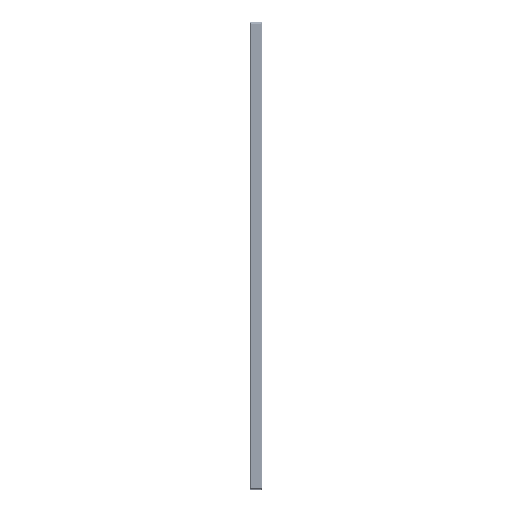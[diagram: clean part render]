
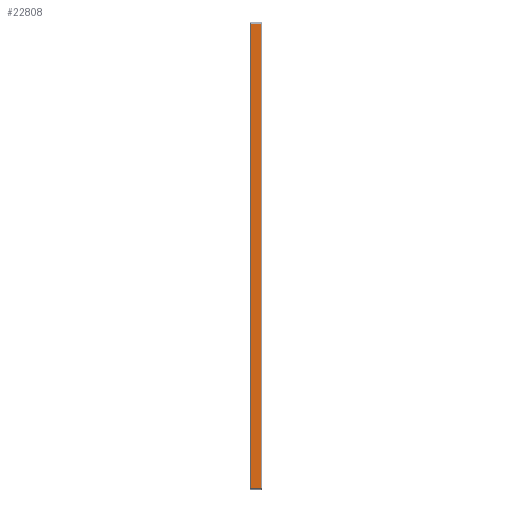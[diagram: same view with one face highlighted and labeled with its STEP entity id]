
A CAD part, top view. The second image highlights one B-rep face of the part: STEP entity #22808.
In plain terms, the highlighted planar face has unit normal (0, 0, 1).
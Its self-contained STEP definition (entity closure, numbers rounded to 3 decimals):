
#6946=FACE_OUTER_BOUND($,#9849,.T.);
#9849=EDGE_LOOP($,(#19291,#19292,#19293,#19294));
#13320=LINE($,#36773,#13360);
#13328=LINE($,#37942,#13368);
#13333=LINE($,#37952,#13373);
#13351=LINE($,#39140,#13391);
#13360=VECTOR($,#28614,13.);
#13368=VECTOR($,#29780,596.);
#13373=VECTOR($,#29787,13.);
#13391=VECTOR($,#30975,596.);
#13399=VERTEX_POINT($,#36770);
#13400=VERTEX_POINT($,#36772);
#13982=VERTEX_POINT($,#37940);
#13986=VERTEX_POINT($,#37950);
#15732=EDGE_CURVE($,#13399,#13400,#13320,.T.);
#16317=EDGE_CURVE($,#13982,#13399,#13328,.T.);
#16322=EDGE_CURVE($,#13986,#13982,#13333,.T.);
#16917=EDGE_CURVE($,#13400,#13986,#13351,.T.);
#19291=ORIENTED_EDGE($,*,*,#16317,.F.);
#19292=ORIENTED_EDGE($,*,*,#16322,.F.);
#19293=ORIENTED_EDGE($,*,*,#16917,.F.);
#19294=ORIENTED_EDGE($,*,*,#15732,.F.);
#22785=PLANE($,#25714);
#22808=ADVANCED_FACE($,(#6946),#22785,.T.);
#25714=AXIS2_PLACEMENT_3D($,#39145,#30980,#30981);
#28614=DIRECTION($,(1.,0.,0.));
#29780=DIRECTION($,(0.,1.,0.));
#29787=DIRECTION($,(-1.,0.,0.));
#30975=DIRECTION($,(0.,-1.,0.));
#30980=DIRECTION('center_axis',(0.,0.,1.));
#30981=DIRECTION('ref_axis',(0.,-1.,0.));
#36770=CARTESIAN_POINT('',(1.,598.,600.));
#36772=CARTESIAN_POINT('',(14.,598.,600.));
#36773=CARTESIAN_POINT($,(0.,598.,600.));
#37940=CARTESIAN_POINT('',(1.,2.,600.));
#37942=CARTESIAN_POINT($,(1.,450.,600.));
#37950=CARTESIAN_POINT('',(14.,2.,600.));
#37952=CARTESIAN_POINT($,(0.,2.,600.));
#39140=CARTESIAN_POINT($,(14.,450.,600.));
#39145=CARTESIAN_POINT('Origin',(0.,600.,600.));
